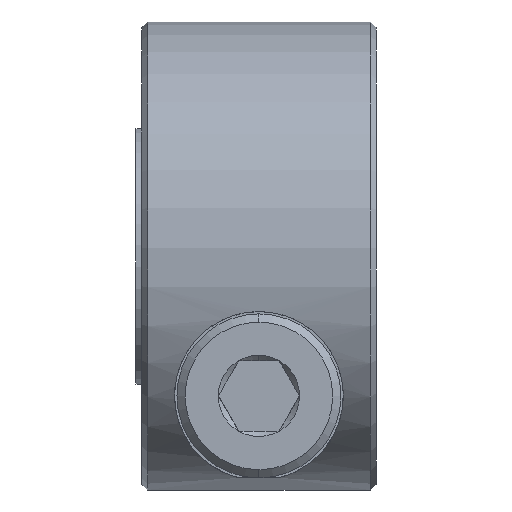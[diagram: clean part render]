
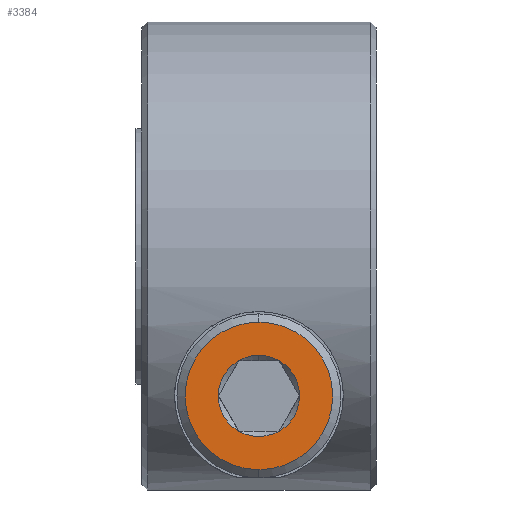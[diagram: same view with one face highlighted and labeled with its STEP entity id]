
A CAD part, left-side view. The second image highlights one B-rep face of the part: STEP entity #3384.
In plain terms, the highlighted planar face has unit normal (-1, 0, 0) as drawn and (0, 0, -1) by its records, which use the part's own axes.
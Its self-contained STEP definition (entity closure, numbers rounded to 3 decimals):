
#328 = ORIENTED_EDGE ( 'NONE', *, *, #8373, .T. ) ;
#610 = EDGE_CURVE ( 'NONE', #12605, #1779, #2670, .T. ) ;
#641 = VERTEX_POINT ( 'NONE', #11945 ) ;
#789 = ORIENTED_EDGE ( 'NONE', *, *, #14145, .F. ) ;
#837 = VERTEX_POINT ( 'NONE', #1475 ) ;
#1160 = CARTESIAN_POINT ( 'NONE',  ( 0., 0., -14. ) ) ;
#1203 = DIRECTION ( 'NONE',  ( 0., 0., -1. ) ) ;
#1243 = AXIS2_PLACEMENT_3D ( 'NONE', #16454, #5608, #15302 ) ;
#1259 = EDGE_LOOP ( 'NONE', ( #9608, #16162, #3777, #5357, #4823, #789, #16679 ) ) ;
#1431 = CIRCLE ( 'NONE', #14361, 3.15 ) ;
#1475 = CARTESIAN_POINT ( 'NONE',  ( -1.5, 0.866, -14. ) ) ;
#1659 = CIRCLE ( 'NONE', #1243, 1.732 ) ;
#1779 = VERTEX_POINT ( 'NONE', #16660 ) ;
#2391 = VERTEX_POINT ( 'NONE', #16800 ) ;
#2490 = AXIS2_PLACEMENT_3D ( 'NONE', #14628, #6506, #17533 ) ;
#2670 = CIRCLE ( 'NONE', #2490, 1.732 ) ;
#3162 = CIRCLE ( 'NONE', #15074, 1.732 ) ;
#3384 = ADVANCED_FACE ( 'NONE', ( #4560, #8390 ), #6605, .T. ) ;
#3777 = ORIENTED_EDGE ( 'NONE', *, *, #10712, .F. ) ;
#4159 = CARTESIAN_POINT ( 'NONE',  ( 0., 0., -14. ) ) ;
#4560 = FACE_OUTER_BOUND ( 'NONE', #9369, .T. ) ;
#4683 = CIRCLE ( 'NONE', #9732, 1.732 ) ;
#4823 = ORIENTED_EDGE ( 'NONE', *, *, #13704, .F. ) ;
#5205 = DIRECTION ( 'NONE',  ( -1., 0., 0. ) ) ;
#5209 = VERTEX_POINT ( 'NONE', #8943 ) ;
#5357 = ORIENTED_EDGE ( 'NONE', *, *, #610, .F. ) ;
#5526 = CARTESIAN_POINT ( 'NONE',  ( 1.5, 0.866, -14. ) ) ;
#5578 = DIRECTION ( 'NONE',  ( -1., 0., 0. ) ) ;
#5608 = DIRECTION ( 'NONE',  ( 0., 0., -1. ) ) ;
#5764 = DIRECTION ( 'NONE',  ( 0., 0., -1. ) ) ;
#6506 = DIRECTION ( 'NONE',  ( 0., 0., -1. ) ) ;
#6605 = PLANE ( 'NONE',  #11138 ) ;
#7043 = DIRECTION ( 'NONE',  ( 0., 0., -1. ) ) ;
#7298 = ORIENTED_EDGE ( 'NONE', *, *, #14946, .T. ) ;
#7327 = CARTESIAN_POINT ( 'NONE',  ( 0., 1.732, -14. ) ) ;
#7719 = DIRECTION ( 'NONE',  ( 0., 0., -1. ) ) ;
#8373 = EDGE_CURVE ( 'NONE', #2391, #641, #11381, .T. ) ;
#8390 = FACE_BOUND ( 'NONE', #1259, .T. ) ;
#8423 = DIRECTION ( 'NONE',  ( -1., 0., 0. ) ) ;
#8742 = VERTEX_POINT ( 'NONE', #13060 ) ;
#8907 = AXIS2_PLACEMENT_3D ( 'NONE', #4159, #12223, #10893 ) ;
#8943 = CARTESIAN_POINT ( 'NONE',  ( 1.5, -0.866, -14. ) ) ;
#9052 = DIRECTION ( 'NONE',  ( -1., 0., 0. ) ) ;
#9232 = EDGE_CURVE ( 'NONE', #8742, #837, #12861, .T. ) ;
#9369 = EDGE_LOOP ( 'NONE', ( #7298, #328 ) ) ;
#9538 = CARTESIAN_POINT ( 'NONE',  ( 0., 0., -14. ) ) ;
#9605 = DIRECTION ( 'NONE',  ( -1., 0., 0. ) ) ;
#9608 = ORIENTED_EDGE ( 'NONE', *, *, #16352, .F. ) ;
#9732 = AXIS2_PLACEMENT_3D ( 'NONE', #9884, #7043, #8423 ) ;
#9823 = DIRECTION ( 'NONE',  ( 0., 0., -1. ) ) ;
#9884 = CARTESIAN_POINT ( 'NONE',  ( 0., 0., -14. ) ) ;
#10506 = DIRECTION ( 'NONE',  ( 0., 0., -1. ) ) ;
#10712 = EDGE_CURVE ( 'NONE', #1779, #8742, #4683, .T. ) ;
#10893 = DIRECTION ( 'NONE',  ( -1., 0., 0. ) ) ;
#11138 = AXIS2_PLACEMENT_3D ( 'NONE', #1160, #12155, #13528 ) ;
#11381 = CIRCLE ( 'NONE', #13857, 3.15 ) ;
#11895 = CARTESIAN_POINT ( 'NONE',  ( 0., 0., -14. ) ) ;
#11945 = CARTESIAN_POINT ( 'NONE',  ( 3.15, 0., -14. ) ) ;
#12083 = AXIS2_PLACEMENT_3D ( 'NONE', #12697, #9823, #12579 ) ;
#12155 = DIRECTION ( 'NONE',  ( 0., 0., -1. ) ) ;
#12223 = DIRECTION ( 'NONE',  ( 0., 0., -1. ) ) ;
#12579 = DIRECTION ( 'NONE',  ( -1., 0., 0. ) ) ;
#12605 = VERTEX_POINT ( 'NONE', #14862 ) ;
#12697 = CARTESIAN_POINT ( 'NONE',  ( 0., 0., -14. ) ) ;
#12861 = CIRCLE ( 'NONE', #8907, 1.732 ) ;
#13042 = CIRCLE ( 'NONE', #15637, 1.732 ) ;
#13060 = CARTESIAN_POINT ( 'NONE',  ( -1.732, 0., -14. ) ) ;
#13156 = VERTEX_POINT ( 'NONE', #7327 ) ;
#13528 = DIRECTION ( 'NONE',  ( -1., 0., 0. ) ) ;
#13704 = EDGE_CURVE ( 'NONE', #5209, #12605, #13042, .T. ) ;
#13857 = AXIS2_PLACEMENT_3D ( 'NONE', #14701, #7719, #5205 ) ;
#14145 = EDGE_CURVE ( 'NONE', #16521, #5209, #1659, .T. ) ;
#14361 = AXIS2_PLACEMENT_3D ( 'NONE', #9538, #1203, #9605 ) ;
#14628 = CARTESIAN_POINT ( 'NONE',  ( 0., 0., -14. ) ) ;
#14701 = CARTESIAN_POINT ( 'NONE',  ( 0., 0., -14. ) ) ;
#14862 = CARTESIAN_POINT ( 'NONE',  ( 0., -1.732, -14. ) ) ;
#14946 = EDGE_CURVE ( 'NONE', #641, #2391, #1431, .T. ) ;
#15074 = AXIS2_PLACEMENT_3D ( 'NONE', #16544, #5764, #5578 ) ;
#15302 = DIRECTION ( 'NONE',  ( -1., 0., 0. ) ) ;
#15413 = CIRCLE ( 'NONE', #12083, 1.732 ) ;
#15637 = AXIS2_PLACEMENT_3D ( 'NONE', #11895, #10506, #9052 ) ;
#16162 = ORIENTED_EDGE ( 'NONE', *, *, #9232, .F. ) ;
#16352 = EDGE_CURVE ( 'NONE', #837, #13156, #15413, .T. ) ;
#16454 = CARTESIAN_POINT ( 'NONE',  ( 0., 0., -14. ) ) ;
#16481 = EDGE_CURVE ( 'NONE', #13156, #16521, #3162, .T. ) ;
#16521 = VERTEX_POINT ( 'NONE', #5526 ) ;
#16544 = CARTESIAN_POINT ( 'NONE',  ( 0., 0., -14. ) ) ;
#16660 = CARTESIAN_POINT ( 'NONE',  ( -1.5, -0.866, -14. ) ) ;
#16679 = ORIENTED_EDGE ( 'NONE', *, *, #16481, .F. ) ;
#16800 = CARTESIAN_POINT ( 'NONE',  ( -3.15, 0., -14. ) ) ;
#17533 = DIRECTION ( 'NONE',  ( -1., 0., 0. ) ) ;
